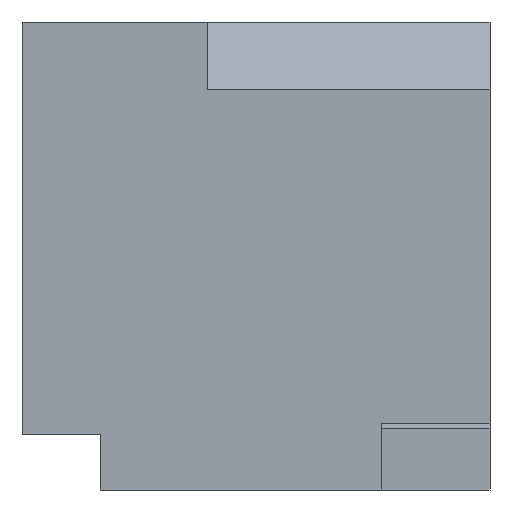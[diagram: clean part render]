
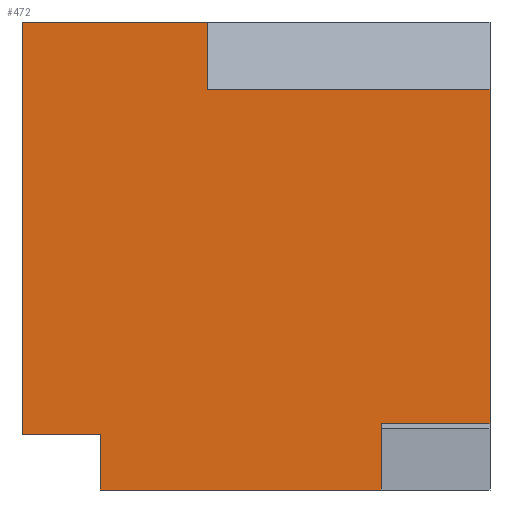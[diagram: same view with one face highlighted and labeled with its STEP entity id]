
A CAD part, front view. The second image highlights one B-rep face of the part: STEP entity #472.
In plain terms, the highlighted planar face has unit normal (0, -1, 0).
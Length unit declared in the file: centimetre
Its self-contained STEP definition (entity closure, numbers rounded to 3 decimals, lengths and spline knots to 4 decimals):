
#30 = CARTESIAN_POINT ( 'NONE',  ( 1000., 0., 141.6326 ) ) ;
#34 = DIRECTION ( 'NONE',  ( 0., 1., 0. ) ) ;
#80 = DIRECTION ( 'NONE',  ( 0., 0., -1. ) ) ;
#86 = VECTOR ( 'NONE', #929, 100. ) ;
#119 = EDGE_CURVE ( 'NONE', #900, #873, #712, .T. ) ;
#135 = DIRECTION ( 'NONE',  ( 1., 0., 0. ) ) ;
#142 = ORIENTED_EDGE ( 'NONE', *, *, #856, .T. ) ;
#153 = CARTESIAN_POINT ( 'NONE',  ( 0., 0., 1000. ) ) ;
#186 = DIRECTION ( 'NONE',  ( 1., 0., 0. ) ) ;
#187 = VERTEX_POINT ( 'NONE', #536 ) ;
#195 = VECTOR ( 'NONE', #518, 100. ) ;
#226 = EDGE_LOOP ( 'NONE', ( #798, #1144, #304, #744, #515, #1076, #240, #142, #841, #790 ) ) ;
#231 = CARTESIAN_POINT ( 'NONE',  ( 167.4207, 0., 0. ) ) ;
#240 = ORIENTED_EDGE ( 'NONE', *, *, #683, .F. ) ;
#263 = CARTESIAN_POINT ( 'NONE',  ( 395.5286, 0., 856.5266 ) ) ;
#304 = ORIENTED_EDGE ( 'NONE', *, *, #1104, .F. ) ;
#305 = CARTESIAN_POINT ( 'NONE',  ( 0., 0., 118.2985 ) ) ;
#311 = EDGE_CURVE ( 'NONE', #603, #845, #825, .T. ) ;
#376 = LINE ( 'NONE', #726, #677 ) ;
#396 = PLANE ( 'NONE',  #1058 ) ;
#398 = VECTOR ( 'NONE', #135, 100. ) ;
#406 = CARTESIAN_POINT ( 'NONE',  ( 768.0007, 0., 0. ) ) ;
#472 = ADVANCED_FACE ( 'NONE', ( #1026 ), #396, .F. ) ;
#480 = VERTEX_POINT ( 'NONE', #231 ) ;
#504 = CARTESIAN_POINT ( 'NONE',  ( 0., 0., 1000. ) ) ;
#515 = ORIENTED_EDGE ( 'NONE', *, *, #311, .T. ) ;
#518 = DIRECTION ( 'NONE',  ( -1., 0., 0. ) ) ;
#519 = EDGE_CURVE ( 'NONE', #713, #845, #809, .T. ) ;
#536 = CARTESIAN_POINT ( 'NONE',  ( 395.5286, 0., 1000. ) ) ;
#557 = EDGE_CURVE ( 'NONE', #603, #187, #1156, .T. ) ;
#562 = LINE ( 'NONE', #1009, #1020 ) ;
#564 = EDGE_CURVE ( 'NONE', #900, #833, #991, .T. ) ;
#566 = CARTESIAN_POINT ( 'NONE',  ( 0., 0., 1000. ) ) ;
#587 = DIRECTION ( 'NONE',  ( 1., 0., 0. ) ) ;
#593 = CARTESIAN_POINT ( 'NONE',  ( 768.0007, 0., 141.6326 ) ) ;
#598 = EDGE_CURVE ( 'NONE', #1090, #833, #710, .T. ) ;
#602 = CARTESIAN_POINT ( 'NONE',  ( 0., 0., 118.2985 ) ) ;
#603 = VERTEX_POINT ( 'NONE', #153 ) ;
#610 = CARTESIAN_POINT ( 'NONE',  ( 768.0007, 0., 141.6326 ) ) ;
#616 = DIRECTION ( 'NONE',  ( 1., 0., 0. ) ) ;
#622 = CARTESIAN_POINT ( 'NONE',  ( 1000., 0., 1000. ) ) ;
#653 = LINE ( 'NONE', #263, #697 ) ;
#677 = VECTOR ( 'NONE', #934, 100. ) ;
#683 = EDGE_CURVE ( 'NONE', #480, #713, #376, .T. ) ;
#694 = CARTESIAN_POINT ( 'NONE',  ( 0., 0., 1000. ) ) ;
#697 = VECTOR ( 'NONE', #186, 100. ) ;
#710 = LINE ( 'NONE', #622, #742 ) ;
#712 = LINE ( 'NONE', #973, #859 ) ;
#713 = VERTEX_POINT ( 'NONE', #815 ) ;
#723 = CARTESIAN_POINT ( 'NONE',  ( 1000., 0., 856.5266 ) ) ;
#726 = CARTESIAN_POINT ( 'NONE',  ( 167.4207, 0., 0. ) ) ;
#742 = VECTOR ( 'NONE', #983, 100. ) ;
#744 = ORIENTED_EDGE ( 'NONE', *, *, #557, .F. ) ;
#757 = VECTOR ( 'NONE', #616, 100. ) ;
#763 = DIRECTION ( 'NONE',  ( 0., 0., 1. ) ) ;
#771 = CARTESIAN_POINT ( 'NONE',  ( 395.5286, 0., 856.5266 ) ) ;
#790 = ORIENTED_EDGE ( 'NONE', *, *, #564, .T. ) ;
#796 = VERTEX_POINT ( 'NONE', #771 ) ;
#798 = ORIENTED_EDGE ( 'NONE', *, *, #598, .F. ) ;
#809 = LINE ( 'NONE', #602, #195 ) ;
#815 = CARTESIAN_POINT ( 'NONE',  ( 167.4207, 0., 118.2985 ) ) ;
#825 = LINE ( 'NONE', #566, #86 ) ;
#833 = VERTEX_POINT ( 'NONE', #30 ) ;
#841 = ORIENTED_EDGE ( 'NONE', *, *, #119, .F. ) ;
#845 = VERTEX_POINT ( 'NONE', #305 ) ;
#856 = EDGE_CURVE ( 'NONE', #480, #873, #1036, .T. ) ;
#859 = VECTOR ( 'NONE', #887, 100. ) ;
#873 = VERTEX_POINT ( 'NONE', #406 ) ;
#887 = DIRECTION ( 'NONE',  ( 0., 0., -1. ) ) ;
#900 = VERTEX_POINT ( 'NONE', #593 ) ;
#929 = DIRECTION ( 'NONE',  ( 0., 0., -1. ) ) ;
#934 = DIRECTION ( 'NONE',  ( 0., 0., 1. ) ) ;
#973 = CARTESIAN_POINT ( 'NONE',  ( 768.0007, 0., 0. ) ) ;
#983 = DIRECTION ( 'NONE',  ( 0., 0., -1. ) ) ;
#991 = LINE ( 'NONE', #610, #398 ) ;
#1009 = CARTESIAN_POINT ( 'NONE',  ( 395.5286, 0., 856.5266 ) ) ;
#1020 = VECTOR ( 'NONE', #80, 100. ) ;
#1026 = FACE_OUTER_BOUND ( 'NONE', #226, .T. ) ;
#1036 = LINE ( 'NONE', #1137, #1083 ) ;
#1058 = AXIS2_PLACEMENT_3D ( 'NONE', #504, #34, #763 ) ;
#1076 = ORIENTED_EDGE ( 'NONE', *, *, #519, .F. ) ;
#1083 = VECTOR ( 'NONE', #587, 100. ) ;
#1090 = VERTEX_POINT ( 'NONE', #723 ) ;
#1104 = EDGE_CURVE ( 'NONE', #187, #796, #562, .T. ) ;
#1137 = CARTESIAN_POINT ( 'NONE',  ( 0., 0., 0. ) ) ;
#1144 = ORIENTED_EDGE ( 'NONE', *, *, #1195, .F. ) ;
#1156 = LINE ( 'NONE', #694, #757 ) ;
#1195 = EDGE_CURVE ( 'NONE', #796, #1090, #653, .T. ) ;
